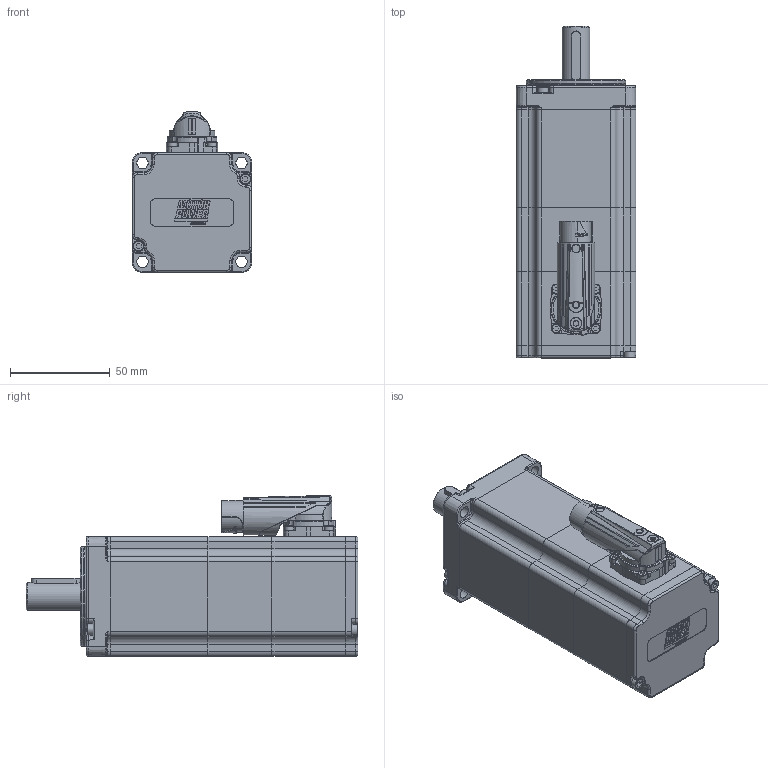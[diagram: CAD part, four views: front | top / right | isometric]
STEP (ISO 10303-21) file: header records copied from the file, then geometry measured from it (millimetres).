
FILE_DESCRIPTION(/* description */ ('Unknown'),/* implementation_level */ '2;1');
FILE_NAME(/* name */ 'TC4-60.2A.XX.X.3.XX.1.1.G11.39.71 Q0C136',/* time_stamp */ '2026-03-03T16:46:17+01:00',/* author */ ('Unknown'),/* organization */ ('Unknown'),/* preprocessor_version */ 'ST-DEVELOPER v19.4',/* originating_system */ 'Solid Edge',/* authorisation */ 'Unknown');
FILE_SCHEMA (('AUTOMOTIVE_DESIGN {1 0 10303 214 3 1 1}'));
Products named in the file (15): Q0C136 2A FRENO M1 VUOTO; 005911000171; 005119001310; 005911000491; ALBERO TC4-60 2A FRENO pred EQI1131 FS key; 003103040224; 003155002197; 005113000400; 007117002067; 003107003285; 005911000495; 003251040722; 003151003163; 005911000273; 005911000492
Assembly tree (24 placements, depth 2):
  Q0C136 2A FRENO M1 VUOTO
    005911000171  x4
    005119001310
    005911000491  x2
    ALBERO TC4-60 2A FRENO pred EQI1131 FS key
    003103040224
    003155002197
    005113000400
    007117002067
    003107003285
    005911000495  x4
    003251040722
    003151003163
    005911000273  x4
    005911000492
Bounding box: 60 x 166 x 80.49 mm (x, y, z)
Volume: 186607.5 mm3; surface area: 111721.8 mm2
Topology: 26 solids, 26 shells, 1854 faces, 4640 edges, 2977 vertices
Faces by surface type: plane 860, cylinder 496, bspline 220, cone 137, torus 124, sphere 17
Full cylindrical faces by diameter (mm): 1 x9, 1.8 x5, 2 x1, 2.013 x12, 2.05 x1, 2.459 x23, 2.5 x9, 2.6 x3, 2.7 x8, 3 x8, 3.06 x1, 3.2 x2, 3.5 x6, 4 x1, 4.134 x1, 4.7 x8, 5 x8, 5.2 x1, 5.5 x8, 5.8 x5, 6 x1, 9.99 x1, 10 x1, 12 x1, 14 x2, 14.99 x1, 15 x1, 16.2 x1, 17.025 x1, 18 x1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
Entity records: 63787 total; most frequent: CARTESIAN_POINT 16992, ORIENTED_EDGE 7950, DIRECTION 7405, EDGE_CURVE 3975, AXIS2_PLACEMENT_3D 2725, VERTEX_POINT 2718, FACE_BOUND 2199, EDGE_LOOP 2183
